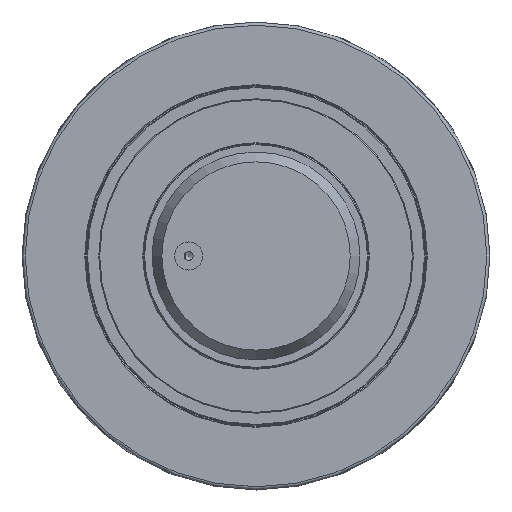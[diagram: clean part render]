
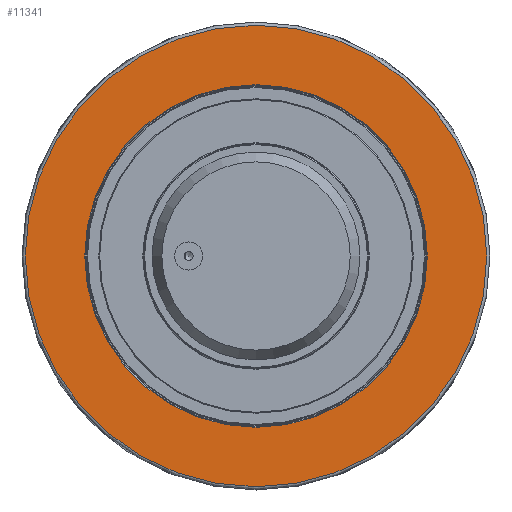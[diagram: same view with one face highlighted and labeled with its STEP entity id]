
A CAD part, left-side view. The second image highlights one B-rep face of the part: STEP entity #11341.
In plain terms, the highlighted planar face has unit normal (-1, 0, 0).
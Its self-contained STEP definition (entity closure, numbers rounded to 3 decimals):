
#1016=FACE_BOUND('',#2118,.T.);
#1082=PLANE('',#12800);
#1523=FACE_OUTER_BOUND('',#2117,.T.);
#2117=EDGE_LOOP('',(#8384,#8385));
#2118=EDGE_LOOP('',(#8386));
#3383=CIRCLE('',#12626,123.266);
#3384=CIRCLE('',#12627,123.266);
#3555=CIRCLE('',#12801,91.5);
#4974=VERTEX_POINT('',#20497);
#4975=VERTEX_POINT('',#20499);
#5146=VERTEX_POINT('',#20847);
#6086=EDGE_CURVE('',#4974,#4975,#3383,.T.);
#6087=EDGE_CURVE('',#4975,#4974,#3384,.T.);
#6260=EDGE_CURVE('',#5146,#5146,#3555,.T.);
#8384=ORIENTED_EDGE('',*,*,#6087,.F.);
#8385=ORIENTED_EDGE('',*,*,#6086,.F.);
#8386=ORIENTED_EDGE('',*,*,#6260,.F.);
#11341=ADVANCED_FACE('',(#1523,#1016),#1082,.T.);
#12626=AXIS2_PLACEMENT_3D('',#20500,#15540,#15541);
#12627=AXIS2_PLACEMENT_3D('',#20501,#15542,#15543);
#12800=AXIS2_PLACEMENT_3D('',#20846,#15890,#15891);
#12801=AXIS2_PLACEMENT_3D('',#20848,#15892,#15893);
#15540=DIRECTION('center_axis',(1.,0.,0.));
#15541=DIRECTION('ref_axis',(0.,0.,
-1.));
#15542=DIRECTION('center_axis',(1.,0.,0.));
#15543=DIRECTION('ref_axis',(0.,0.,
-1.));
#15890=DIRECTION('center_axis',(-1.,0.,0.));
#15891=DIRECTION('ref_axis',(0.,-1.,0.));
#15892=DIRECTION('center_axis',(-1.,0.,0.));
#15893=DIRECTION('ref_axis',(0.,0.,
-1.));
#20497=CARTESIAN_POINT('',(-10.351,-120.523,0.));
#20499=CARTESIAN_POINT('',(-10.351,2.743,123.266));
#20500=CARTESIAN_POINT('Origin',(-10.351,2.743,0.));
#20501=CARTESIAN_POINT('Origin',(-10.351,2.743,0.));
#20846=CARTESIAN_POINT('Origin',(-10.351,2.743,107.869));
#20847=CARTESIAN_POINT('',(-10.351,2.743,91.5));
#20848=CARTESIAN_POINT('Origin',(-10.351,2.743,0.));
